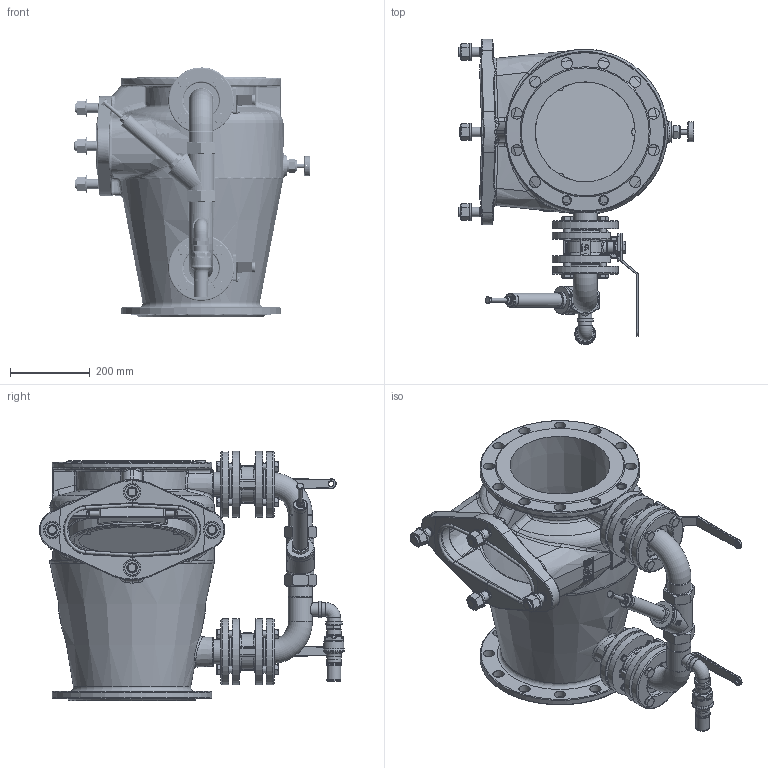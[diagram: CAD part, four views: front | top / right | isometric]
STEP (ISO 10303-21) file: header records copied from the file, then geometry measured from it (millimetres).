
FILE_DESCRIPTION((''),'2;1');
FILE_NAME('Z:\Kunder\BPS\BPS Produkter\BPS 6504\DN 250\6504250.stp','2012-09-05T11:04:21',('Account'),(''),'Autodesk Inventor 2013','Autodesk Inventor 2013','');
FILE_SCHEMA(('AUTOMOTIVE_DESIGN { 1 0 10303 214 1 1 1 1 }'));
Length unit declared in the file: millimetre
Products named in the file (1): Part9
Bounding box: 590.1 x 763.93 x 623.43 mm (x, y, z)
Volume: 141535.9 mm3; surface area: 3209144.5 mm2
Topology: 13 solids, 34 shells, 4412 faces, 11081 edges, 7076 vertices
Faces by surface type: plane 2237, bspline 807, cylinder 743, cone 401, torus 192, sphere 32
Full cylindrical faces by diameter (mm): 3 x1, 3.242 x1, 4 x3, 5 x1, 8 x4, 10 x5, 10.1 x1, 12 x3, 12.1 x2, 12.5 x2, 14 x2, 14.4 x1, 14.63 x1, 15 x1, 15.6 x2, 16 x35, 16.5 x1, 16.8 x1, 17.5 x16, 18.5 x2, 20 x1, 21 x2, 21.8 x8, 22 x6, 22.49 x16, 23 x1, 24 x19, 24.2 x2, 25 x5, 26.441 x1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
Entity records: 165435 total; most frequent: CARTESIAN_POINT 63651, ORIENTED_EDGE 20878, DIRECTION 18515, EDGE_CURVE 10459, AXIS2_PLACEMENT_3D 7048, VERTEX_POINT 6921, EDGE_LOOP 5413, VECTOR 4419
